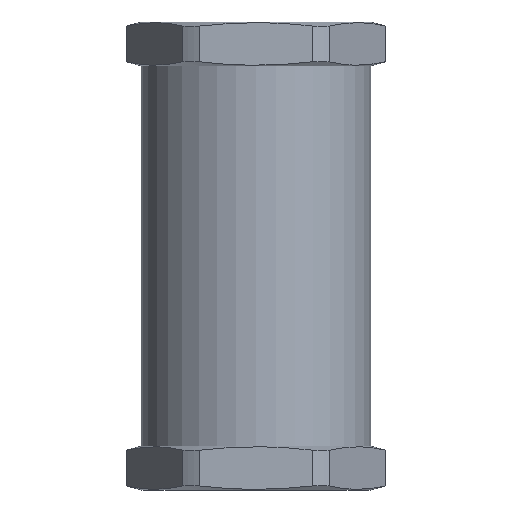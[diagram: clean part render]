
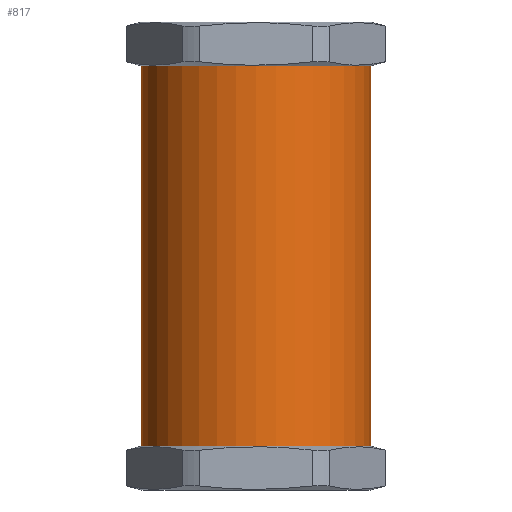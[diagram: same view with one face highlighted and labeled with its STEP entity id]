
A CAD part, front view. The second image highlights one B-rep face of the part: STEP entity #817.
In plain terms, the highlighted cylindrical face has radius 24.892 mm (diameter 49.784 mm), a partial arc.
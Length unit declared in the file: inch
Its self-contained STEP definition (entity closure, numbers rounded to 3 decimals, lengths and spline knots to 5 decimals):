
#8 = EDGE_CURVE ( 'NONE', #971, #988, #1406, .T. ) ;
#21 = EDGE_CURVE ( 'NONE', #1001, #984, #361, .T. ) ;
#52 = EDGE_CURVE ( 'NONE', #988, #984, #1165, .T. ) ;
#95 = DIRECTION ( 'NONE',  ( 0., 0., -1. ) ) ;
#99 = FACE_OUTER_BOUND ( 'NONE', #1482, .T. ) ;
#100 = CARTESIAN_POINT ( 'NONE',  ( 0., 0., 0. ) ) ;
#101 = CYLINDRICAL_SURFACE ( 'NONE', #253, 0.98 ) ;
#102 = DIRECTION ( 'NONE',  ( -1., 0., 0. ) ) ;
#253 = AXIS2_PLACEMENT_3D ( 'NONE', #100, #95, #102 ) ;
#301 = VECTOR ( 'NONE', #1187, 39.37008 ) ;
#307 = VECTOR ( 'NONE', #1216, 39.37008 ) ;
#361 = CIRCLE ( 'NONE', #398, 0.98 ) ;
#398 = AXIS2_PLACEMENT_3D ( 'NONE', #1088, #1089, #1090 ) ;
#573 = ORIENTED_EDGE ( 'NONE', *, *, #52, .T. ) ;
#574 = ORIENTED_EDGE ( 'NONE', *, *, #21, .F. ) ;
#575 = ORIENTED_EDGE ( 'NONE', *, *, #760, .F. ) ;
#576 = ORIENTED_EDGE ( 'NONE', *, *, #8, .T. ) ;
#634 = CARTESIAN_POINT ( 'NONE',  ( 0.98, 0., 3.625 ) ) ;
#647 = CARTESIAN_POINT ( 'NONE',  ( -0.98, 0., 0.375 ) ) ;
#651 = CARTESIAN_POINT ( 'NONE',  ( -0.98, 0., 3.625 ) ) ;
#664 = CARTESIAN_POINT ( 'NONE',  ( 0.98, 0., 0.375 ) ) ;
#760 = EDGE_CURVE ( 'NONE', #971, #1001, #1210, .T. ) ;
#817 = ADVANCED_FACE ( 'NONE', ( #99 ), #101, .T. ) ;
#971 = VERTEX_POINT ( 'NONE', #634 ) ;
#984 = VERTEX_POINT ( 'NONE', #647 ) ;
#988 = VERTEX_POINT ( 'NONE', #651 ) ;
#1001 = VERTEX_POINT ( 'NONE', #664 ) ;
#1038 = CARTESIAN_POINT ( 'NONE',  ( 0., 0., 3.625 ) ) ;
#1039 = DIRECTION ( 'NONE',  ( 0., 0., -1. ) ) ;
#1040 = DIRECTION ( 'NONE',  ( -1., 0., 0. ) ) ;
#1088 = CARTESIAN_POINT ( 'NONE',  ( 0., 0., 0.375 ) ) ;
#1089 = DIRECTION ( 'NONE',  ( 0., 0., -1. ) ) ;
#1090 = DIRECTION ( 'NONE',  ( -1., 0., 0. ) ) ;
#1165 = LINE ( 'NONE', #1173, #301 ) ;
#1173 = CARTESIAN_POINT ( 'NONE',  ( -0.98, 0., 0. ) ) ;
#1187 = DIRECTION ( 'NONE',  ( 0., 0., -1. ) ) ;
#1210 = LINE ( 'NONE', #1215, #307 ) ;
#1215 = CARTESIAN_POINT ( 'NONE',  ( 0.98, 0., 0. ) ) ;
#1216 = DIRECTION ( 'NONE',  ( 0., 0., -1. ) ) ;
#1406 = CIRCLE ( 'NONE', #1408, 0.98 ) ;
#1408 = AXIS2_PLACEMENT_3D ( 'NONE', #1038, #1039, #1040 ) ;
#1482 = EDGE_LOOP ( 'NONE', ( #575, #576, #573, #574 ) ) ;
